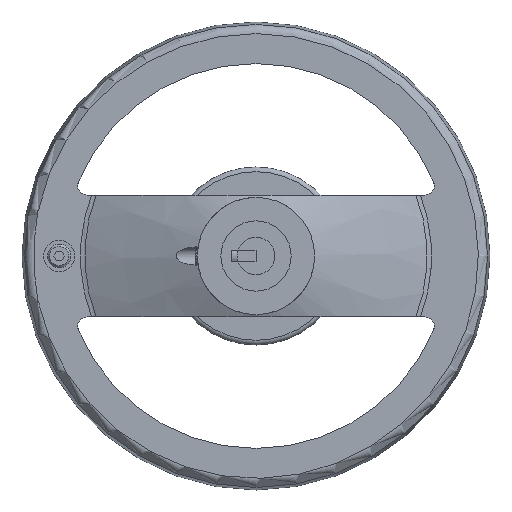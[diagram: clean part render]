
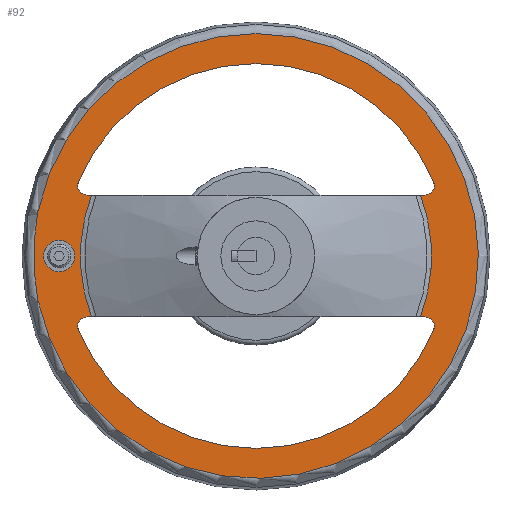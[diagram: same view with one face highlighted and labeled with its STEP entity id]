
A CAD part, left-side view. The second image highlights one B-rep face of the part: STEP entity #92.
In plain terms, the highlighted planar face has unit normal (-1, 0, 0).
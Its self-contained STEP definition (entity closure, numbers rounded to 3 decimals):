
#92 = ADVANCED_FACE( '', ( #222, #223, #224, #225, #226 ), #227, .F. );
#222 = FACE_BOUND( '', #474, .T. );
#223 = FACE_BOUND( '', #475, .T. );
#224 = FACE_OUTER_BOUND( '', #476, .T. );
#225 = FACE_BOUND( '', #477, .T. );
#226 = FACE_BOUND( '', #478, .T. );
#227 = PLANE( '', #479 );
#474 = EDGE_LOOP( '', ( #813, #814, #815, #816 ) );
#475 = EDGE_LOOP( '', ( #817 ) );
#476 = EDGE_LOOP( '', ( #818, #819, #820, #821, #822, #823 ) );
#477 = EDGE_LOOP( '', ( #824, #825, #826, #827 ) );
#478 = EDGE_LOOP( '', ( #828, #829, #830, #831 ) );
#479 = AXIS2_PLACEMENT_3D( '', #832, #833, #834 );
#813 = ORIENTED_EDGE( '', *, *, #1481, .F. );
#814 = ORIENTED_EDGE( '', *, *, #1453, .F. );
#815 = ORIENTED_EDGE( '', *, *, #1456, .F. );
#816 = ORIENTED_EDGE( '', *, *, #1482, .F. );
#817 = ORIENTED_EDGE( '', *, *, #1463, .F. );
#818 = ORIENTED_EDGE( '', *, *, #1480, .T. );
#819 = ORIENTED_EDGE( '', *, *, #1483, .F. );
#820 = ORIENTED_EDGE( '', *, *, #1484, .F. );
#821 = ORIENTED_EDGE( '', *, *, #1477, .T. );
#822 = ORIENTED_EDGE( '', *, *, #1475, .F. );
#823 = ORIENTED_EDGE( '', *, *, #1465, .F. );
#824 = ORIENTED_EDGE( '', *, *, #1485, .F. );
#825 = ORIENTED_EDGE( '', *, *, #1486, .F. );
#826 = ORIENTED_EDGE( '', *, *, #1487, .F. );
#827 = ORIENTED_EDGE( '', *, *, #1488, .F. );
#828 = ORIENTED_EDGE( '', *, *, #1489, .F. );
#829 = ORIENTED_EDGE( '', *, *, #1490, .F. );
#830 = ORIENTED_EDGE( '', *, *, #1491, .F. );
#831 = ORIENTED_EDGE( '', *, *, #1492, .F. );
#832 = CARTESIAN_POINT( '', ( 33., -94.9, 0. ) );
#833 = DIRECTION( '', ( 1., 0., 0. ) );
#834 = DIRECTION( '', ( 0., 0., -1. ) );
#1453 = EDGE_CURVE( '', #1694, #1696, #1697, .T. );
#1456 = EDGE_CURVE( '', #1699, #1694, #1701, .T. );
#1463 = EDGE_CURVE( '', #1714, #1714, #1715, .F. );
#1465 = EDGE_CURVE( '', #1716, #1719, #1720, .T. );
#1475 = EDGE_CURVE( '', #1719, #1736, #1738, .T. );
#1477 = EDGE_CURVE( '', #1741, #1736, #1742, .T. );
#1480 = EDGE_CURVE( '', #1716, #1745, #1747, .T. );
#1481 = EDGE_CURVE( '', #1696, #1748, #1749, .T. );
#1482 = EDGE_CURVE( '', #1748, #1699, #1750, .T. );
#1483 = EDGE_CURVE( '', #1751, #1745, #1752, .T. );
#1484 = EDGE_CURVE( '', #1741, #1751, #1753, .T. );
#1485 = EDGE_CURVE( '', #1754, #1755, #1756, .F. );
#1486 = EDGE_CURVE( '', #1757, #1754, #1758, .F. );
#1487 = EDGE_CURVE( '', #1759, #1757, #1760, .F. );
#1488 = EDGE_CURVE( '', #1755, #1759, #1761, .T. );
#1489 = EDGE_CURVE( '', #1762, #1763, #1764, .F. );
#1490 = EDGE_CURVE( '', #1765, #1762, #1766, .T. );
#1491 = EDGE_CURVE( '', #1767, #1765, #1768, .F. );
#1492 = EDGE_CURVE( '', #1763, #1767, #1769, .F. );
#1694 = VERTEX_POINT( '', #2205 );
#1696 = VERTEX_POINT( '', #2212 );
#1697 = LINE( '', #2213, #2214 );
#1699 = VERTEX_POINT( '', #2221 );
#1701 = CIRCLE( '', #2230, 74.896 );
#1714 = VERTEX_POINT( '', #2243 );
#1715 = CIRCLE( '', #2244, 6.667 );
#1716 = VERTEX_POINT( '', #2245 );
#1719 = VERTEX_POINT( '', #2253 );
#1720 = LINE( '', #2254, #2255 );
#1736 = VERTEX_POINT( '', #2289 );
#1738 = LINE( '', #2295, #2296 );
#1741 = VERTEX_POINT( '', #2299 );
#1742 = CIRCLE( '', #2300, 94.9 );
#1745 = VERTEX_POINT( '', #2307 );
#1747 = CIRCLE( '', #2313, 94.9 );
#1748 = VERTEX_POINT( '', #2314 );
#1749 = CIRCLE( '', #2315, 74.896 );
#1750 = LINE( '', #2316, #2317 );
#1751 = VERTEX_POINT( '', #2318 );
#1752 = LINE( '', #2319, #2320 );
#1753 = LINE( '', #2321, #2322 );
#1754 = VERTEX_POINT( '', #2323 );
#1755 = VERTEX_POINT( '', #2324 );
#1756 = CIRCLE( '', #2325, 4. );
#1757 = VERTEX_POINT( '', #2326 );
#1758 = CIRCLE( '', #2327, 82.1 );
#1759 = VERTEX_POINT( '', #2328 );
#1760 = CIRCLE( '', #2329, 4. );
#1761 = LINE( '', #2330, #2331 );
#1762 = VERTEX_POINT( '', #2332 );
#1763 = VERTEX_POINT( '', #2333 );
#1764 = CIRCLE( '', #2334, 4. );
#1765 = VERTEX_POINT( '', #2335 );
#1766 = LINE( '', #2336, #2337 );
#1767 = VERTEX_POINT( '', #2338 );
#1768 = CIRCLE( '', #2339, 4. );
#1769 = CIRCLE( '', #2340, 82.1 );
#2205 = CARTESIAN_POINT( '', ( 33., 70.239, -25.999 ) );
#2212 = CARTESIAN_POINT( '', ( 33., -70.239, -25.999 ) );
#2213 = CARTESIAN_POINT( '', ( 33., 200., -25.999 ) );
#2214 = VECTOR( '', #2980, 1000. );
#2221 = CARTESIAN_POINT( '', ( 33., 70.239, 25.999 ) );
#2230 = AXIS2_PLACEMENT_3D( '', #2981, #2982, #2983 );
#2243 = CARTESIAN_POINT( '', ( 33., 84., -6.667 ) );
#2244 = AXIS2_PLACEMENT_3D( '', #3002, #3003, #3004 );
#2245 = CARTESIAN_POINT( '', ( 33., 92.855, -19.596 ) );
#2253 = CARTESIAN_POINT( '', ( 33., 93.25, -19.596 ) );
#2254 = CARTESIAN_POINT( '', ( 33., 91.25, -19.596 ) );
#2255 = VECTOR( '', #3005, 1000. );
#2289 = CARTESIAN_POINT( '', ( 33., 93.25, -17.619 ) );
#2295 = CARTESIAN_POINT( '', ( 33., 93.25, -19.596 ) );
#2296 = VECTOR( '', #3016, 1000. );
#2299 = CARTESIAN_POINT( '', ( 33., 93.25, 17.619 ) );
#2300 = AXIS2_PLACEMENT_3D( '', #3020, #3021, #3022 );
#2307 = CARTESIAN_POINT( '', ( 33., 92.855, 19.596 ) );
#2313 = AXIS2_PLACEMENT_3D( '', #3023, #3024, #3025 );
#2314 = CARTESIAN_POINT( '', ( 33., -70.239, 25.999 ) );
#2315 = AXIS2_PLACEMENT_3D( '', #3026, #3027, #3028 );
#2316 = CARTESIAN_POINT( '', ( 33., -200., 25.999 ) );
#2317 = VECTOR( '', #3029, 1000. );
#2318 = CARTESIAN_POINT( '', ( 33., 93.25, 19.596 ) );
#2319 = CARTESIAN_POINT( '', ( 33., 93.25, 19.596 ) );
#2320 = VECTOR( '', #3030, 1000. );
#2321 = CARTESIAN_POINT( '', ( 33., 93.25, -19.596 ) );
#2322 = VECTOR( '', #3031, 1000. );
#2323 = CARTESIAN_POINT( '', ( 33., 75.801, 31.536 ) );
#2324 = CARTESIAN_POINT( '', ( 33., 72.108, 26. ) );
#2325 = AXIS2_PLACEMENT_3D( '', #3032, #3033, #3034 );
#2326 = CARTESIAN_POINT( '', ( 33., -75.801, 31.536 ) );
#2327 = AXIS2_PLACEMENT_3D( '', #3035, #3036, #3037 );
#2328 = CARTESIAN_POINT( '', ( 33., -72.108, 26. ) );
#2329 = AXIS2_PLACEMENT_3D( '', #3038, #3039, #3040 );
#2330 = CARTESIAN_POINT( '', ( 33., -94.9, 26. ) );
#2331 = VECTOR( '', #3041, 1000. );
#2332 = CARTESIAN_POINT( '', ( 33., 72.108, -26. ) );
#2333 = CARTESIAN_POINT( '', ( 33., 75.801, -31.536 ) );
#2334 = AXIS2_PLACEMENT_3D( '', #3042, #3043, #3044 );
#2335 = CARTESIAN_POINT( '', ( 33., -72.108, -26. ) );
#2336 = CARTESIAN_POINT( '', ( 33., -94.9, -26. ) );
#2337 = VECTOR( '', #3045, 1000. );
#2338 = CARTESIAN_POINT( '', ( 33., -75.801, -31.536 ) );
#2339 = AXIS2_PLACEMENT_3D( '', #3046, #3047, #3048 );
#2340 = AXIS2_PLACEMENT_3D( '', #3049, #3050, #3051 );
#2980 = DIRECTION( '', ( 0., -1., 0. ) );
#2981 = CARTESIAN_POINT( '', ( 33., 0., 0. ) );
#2982 = DIRECTION( '', ( -1., 0., 0. ) );
#2983 = DIRECTION( '', ( 0., 0., 1. ) );
#3002 = CARTESIAN_POINT( '', ( 33., 84., 0. ) );
#3003 = DIRECTION( '', ( 1., 0., 0. ) );
#3004 = DIRECTION( '', ( 0., 0., -1. ) );
#3005 = DIRECTION( '', ( 0., 1., 0. ) );
#3016 = DIRECTION( '', ( 0., 0., 1. ) );
#3020 = CARTESIAN_POINT( '', ( 33., 0., 0. ) );
#3021 = DIRECTION( '', ( -1., 0., 0. ) );
#3022 = DIRECTION( '', ( 0., 0., 1. ) );
#3023 = CARTESIAN_POINT( '', ( 33., 0., 0. ) );
#3024 = DIRECTION( '', ( -1., 0., 0. ) );
#3025 = DIRECTION( '', ( 0., 0., 1. ) );
#3026 = CARTESIAN_POINT( '', ( 33., 0., 0. ) );
#3027 = DIRECTION( '', ( -1., 0., 0. ) );
#3028 = DIRECTION( '', ( 0., 0., 1. ) );
#3029 = DIRECTION( '', ( 0., 1., 0. ) );
#3030 = DIRECTION( '', ( 0., -1., 0. ) );
#3031 = DIRECTION( '', ( 0., 0., 1. ) );
#3032 = CARTESIAN_POINT( '', ( 33., 72.108, 30. ) );
#3033 = DIRECTION( '', ( 1., 0., 0. ) );
#3034 = DIRECTION( '', ( 0., 0., -1. ) );
#3035 = CARTESIAN_POINT( '', ( 33., 0., 0. ) );
#3036 = DIRECTION( '', ( 1., 0., 0. ) );
#3037 = DIRECTION( '', ( 0., 0., -1. ) );
#3038 = CARTESIAN_POINT( '', ( 33., -72.108, 30. ) );
#3039 = DIRECTION( '', ( 1., 0., 0. ) );
#3040 = DIRECTION( '', ( 0., 0., -1. ) );
#3041 = DIRECTION( '', ( 0., -1., 0. ) );
#3042 = CARTESIAN_POINT( '', ( 33., 72.108, -30. ) );
#3043 = DIRECTION( '', ( 1., 0., 0. ) );
#3044 = DIRECTION( '', ( 0., 0., -1. ) );
#3045 = DIRECTION( '', ( 0., 1., 0. ) );
#3046 = CARTESIAN_POINT( '', ( 33., -72.108, -30. ) );
#3047 = DIRECTION( '', ( 1., 0., 0. ) );
#3048 = DIRECTION( '', ( 0., 0., -1. ) );
#3049 = CARTESIAN_POINT( '', ( 33., 0., 0. ) );
#3050 = DIRECTION( '', ( 1., 0., 0. ) );
#3051 = DIRECTION( '', ( 0., 0., -1. ) );
